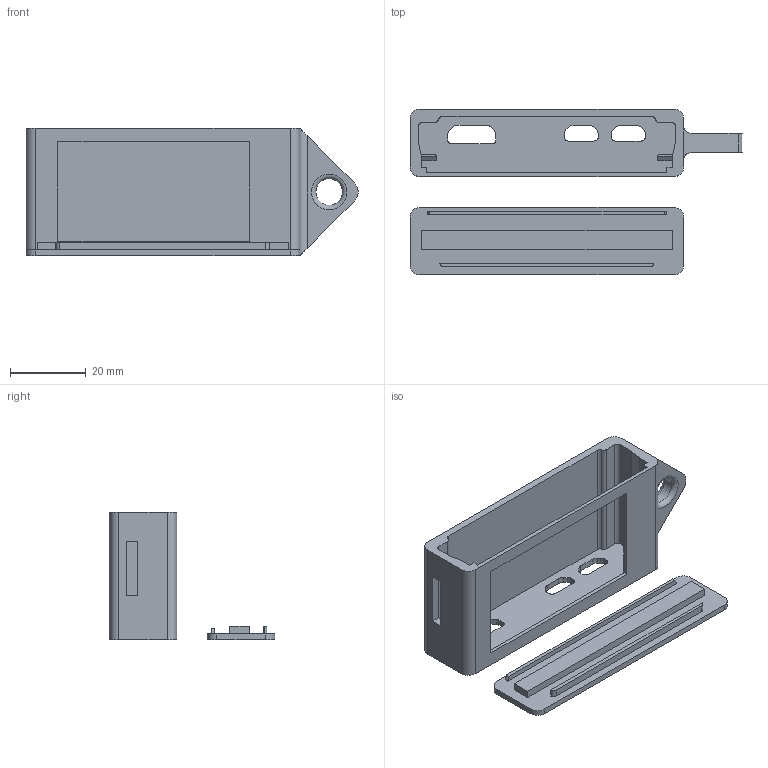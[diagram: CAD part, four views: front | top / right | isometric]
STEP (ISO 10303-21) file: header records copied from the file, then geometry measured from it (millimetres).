
FILE_DESCRIPTION(/* description */ (''),/* implementation_level */ '2;1');
FILE_NAME(/* name */ 'C:/Users/ondre/OneDrive/Documents/3D_printing/2019-10 pwnagotchi/pwnagotchi-inkyphat-carabiner-case.step',/* time_stamp */ '2019-10-25T09:50:52+02:00',/* author */ (''),/* organization */ (''),/* preprocessor_version */ 'ST-DEVELOPER v18',/* originating_system */ 'Autodesk Translation Framework v8.6.0.1094',/* authorisation */ '');
FILE_SCHEMA (('AUTOMOTIVE_DESIGN { 1 0 10303 214 3 1 1 }'));
Length unit declared in the file: millimetre
Products named in the file (1): pwnagotchi-case
Bounding box: 87.91 x 43.81 x 33.76 mm (x, y, z)
Volume: 14505.5 mm3; surface area: 15218.5 mm2
Topology: 2 solids, 2 shells, 127 faces, 358 edges, 238 vertices
Faces by surface type: plane 81, cylinder 44, torus 2
Full cylindrical faces by diameter (mm): 7 x1
Entity records: 4177 total; most frequent: CARTESIAN_POINT 724, ORIENTED_EDGE 716, DIRECTION 712, EDGE_CURVE 358, LINE 260, VECTOR 260, VERTEX_POINT 238, AXIS2_PLACEMENT_3D 226
